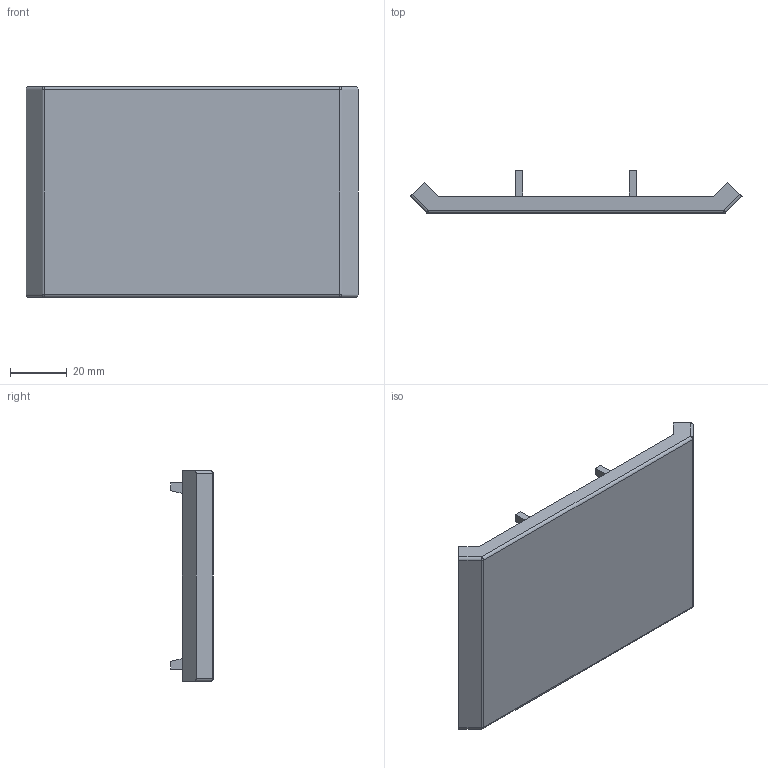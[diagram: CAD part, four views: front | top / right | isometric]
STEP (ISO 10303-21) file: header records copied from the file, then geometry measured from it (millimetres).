
FILE_DESCRIPTION (( 'STEP AP214' ), '1' );
FILE_NAME ('1071cap-GRAY.STEP', '2026-08-26T11:22:59', ( '' ), ( '' ), 'SwSTEP 2.0', 'SolidWorks 2022', '' );
FILE_SCHEMA (( 'AUTOMOTIVE_DESIGN' ));
Length unit declared in the file: millimetre
Products named in the file (1): 1071cap-GRAY
Bounding box: 116.8 x 15 x 74 mm (x, y, z)
Volume: 26409.3 mm3; surface area: 21837.6 mm2
Topology: 1 solids, 1 shells, 73 faces, 205 edges, 130 vertices
Faces by surface type: plane 42, cylinder 27, sphere 4
Entity records: 2347 total; most frequent: CARTESIAN_POINT 405, DIRECTION 403, ORIENTED_EDGE 402, EDGE_CURVE 201, VECTOR 147, LINE 147, VERTEX_POINT 130, AXIS2_PLACEMENT_3D 128
